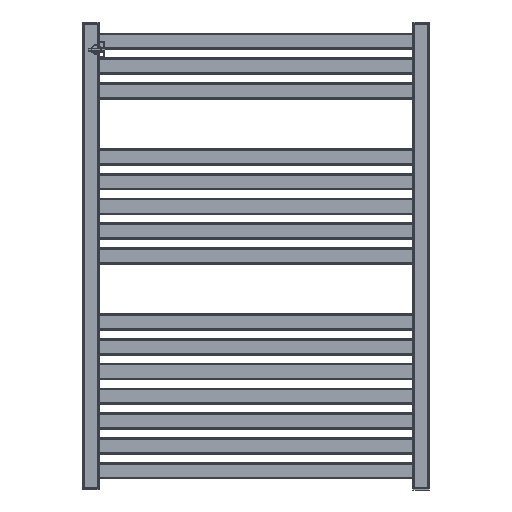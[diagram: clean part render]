
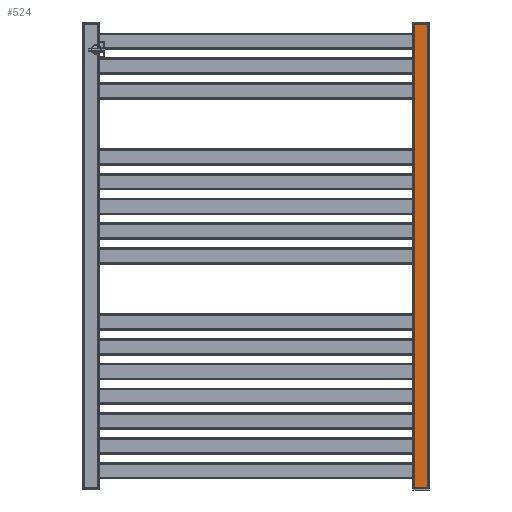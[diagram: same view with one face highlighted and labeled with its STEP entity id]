
A CAD part, front view. The second image highlights one B-rep face of the part: STEP entity #524.
In plain terms, the highlighted planar face has unit normal (0, -1, 0) as drawn and (-1, 0, 0) by its records, which use the part's own axes.
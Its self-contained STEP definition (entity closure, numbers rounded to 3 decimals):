
#524 = ADVANCED_FACE( '', ( #1121 ), #1122, .T. );
#1121 = FACE_OUTER_BOUND( '', #1775, .T. );
#1122 = PLANE( '', #1776 );
#1775 = EDGE_LOOP( '', ( #3380, #3381, #3382, #3383 ) );
#1776 = AXIS2_PLACEMENT_3D( '', #3384, #3385, #3386 );
#3380 = ORIENTED_EDGE( '', *, *, #4032, .T. );
#3381 = ORIENTED_EDGE( '', *, *, #4329, .T. );
#3382 = ORIENTED_EDGE( '', *, *, #4291, .F. );
#3383 = ORIENTED_EDGE( '', *, *, #4303, .T. );
#3384 = CARTESIAN_POINT( '', ( -15., 846., 15. ) );
#3385 = DIRECTION( '', ( -1., 0., 0. ) );
#3386 = DIRECTION( '', ( 0., 0., 1. ) );
#4032 = EDGE_CURVE( '', #4959, #4957, #4960, .T. );
#4291 = EDGE_CURVE( '', #5307, #5309, #5310, .T. );
#4303 = EDGE_CURVE( '', #5307, #4959, #5322, .F. );
#4329 = EDGE_CURVE( '', #4957, #5309, #5348, .T. );
#4957 = VERTEX_POINT( '', #6158 );
#4959 = VERTEX_POINT( '', #6160 );
#4960 = LINE( '', #6161, #6162 );
#5307 = VERTEX_POINT( '', #6637 );
#5309 = VERTEX_POINT( '', #6639 );
#5310 = LINE( '', #6640, #6641 );
#5322 = LINE( '', #6656, #6657 );
#5348 = LINE( '', #6693, #6694 );
#6158 = CARTESIAN_POINT( '', ( -15., 846., -12. ) );
#6160 = CARTESIAN_POINT( '', ( -15., 846., 12. ) );
#6161 = CARTESIAN_POINT( '', ( -15., 846., 15. ) );
#6162 = VECTOR( '', #7254, 1000. );
#6637 = CARTESIAN_POINT( '', ( -15., 0., 12. ) );
#6639 = CARTESIAN_POINT( '', ( -15., 0., -12. ) );
#6640 = CARTESIAN_POINT( '', ( -15., 0., 15. ) );
#6641 = VECTOR( '', #7557, 1000. );
#6656 = CARTESIAN_POINT( '', ( -15., 846., 12. ) );
#6657 = VECTOR( '', #7564, 1000. );
#6693 = CARTESIAN_POINT( '', ( -15., 846., -12. ) );
#6694 = VECTOR( '', #7578, 1000. );
#7254 = DIRECTION( '', ( 0., 0., -1. ) );
#7557 = DIRECTION( '', ( 0., 0., -1. ) );
#7564 = DIRECTION( '', ( 0., -1., 0. ) );
#7578 = DIRECTION( '', ( 0., -1., 0. ) );
